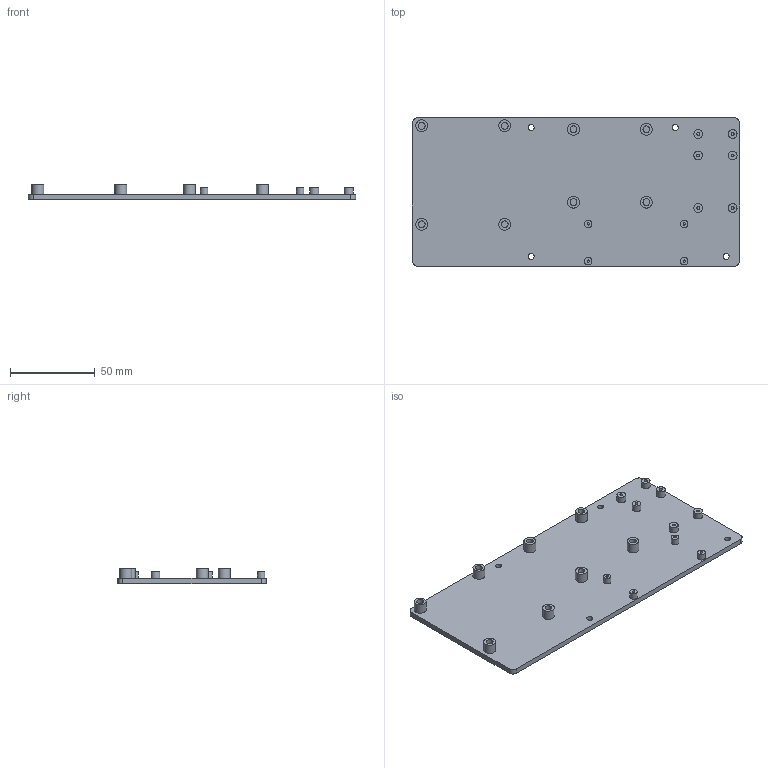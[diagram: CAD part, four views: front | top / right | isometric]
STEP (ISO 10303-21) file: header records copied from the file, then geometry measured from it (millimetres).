
FILE_DESCRIPTION(('FreeCAD Model'),'2;1');
FILE_NAME('Open CASCADE Shape Model','2026-09-11T13:41:27',( '' ),( '' ),'Open CASCADE STEP processor 7.8','FreeCAD','Unknown');
FILE_SCHEMA(('AUTOMOTIVE_DESIGN { 1 0 10303 214 1 1 1 1 }'));
Length unit declared in the file: millimetre
Products named in the file (1): Open CASCADE STEP translator 7.8 9
Bounding box: 193 x 87.4 x 9.15 mm (x, y, z)
Volume: 55838.7 mm3; surface area: 37868.7 mm2
Topology: 1 solids, 1 shells, 86 faces, 144 edges, 96 vertices
Faces by surface type: cylinder 44, plane 42
Full cylindrical faces by diameter (mm): 1.4 x4, 1.7 x6, 3.6 x4, 4 x8, 4.4 x4, 5.2 x6, 7 x8
Entity records: 2082 total; most frequent: DIRECTION 406, CARTESIAN_POINT 327, ORIENTED_EDGE 288, AXIS2_PLACEMENT_3D 175, EDGE_CURVE 144, FACE_BOUND 130, EDGE_LOOP 130, VERTEX_POINT 96
